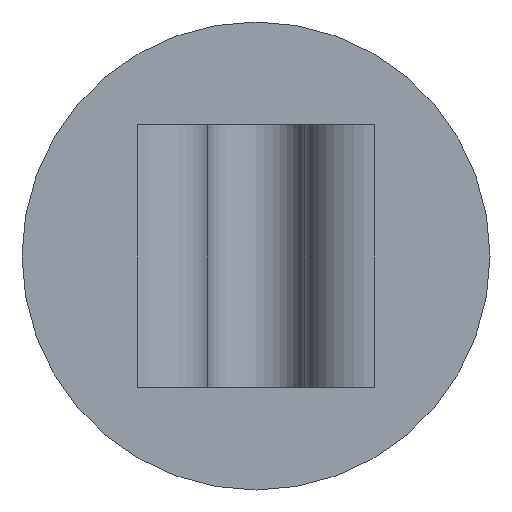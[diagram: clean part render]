
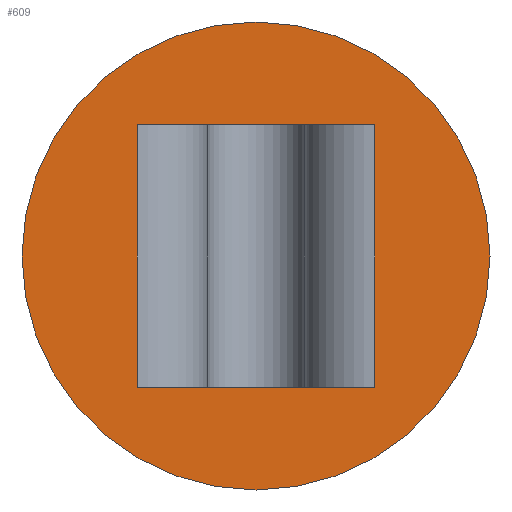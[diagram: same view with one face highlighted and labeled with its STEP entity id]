
A CAD part, front view. The second image highlights one B-rep face of the part: STEP entity #609.
In plain terms, the highlighted planar face has unit normal (0, -1, 0).
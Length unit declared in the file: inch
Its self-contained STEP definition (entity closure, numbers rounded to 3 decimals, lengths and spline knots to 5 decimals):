
#5 = VERTEX_POINT ( 'NONE', #722 ) ;
#6 = CARTESIAN_POINT ( 'NONE',  ( 0., -0.125, 0.35 ) ) ;
#16 = ORIENTED_EDGE ( 'NONE', *, *, #293, .T. ) ;
#21 = AXIS2_PLACEMENT_3D ( 'NONE', #364, #250, #245 ) ;
#26 = VERTEX_POINT ( 'NONE', #626 ) ;
#46 = DIRECTION ( 'NONE',  ( 0., 0., 1. ) ) ;
#49 = VECTOR ( 'NONE', #424, 39.37008 ) ;
#67 = CARTESIAN_POINT ( 'NONE',  ( -0.625, -0.125, 0.7 ) ) ;
#92 = CARTESIAN_POINT ( 'NONE',  ( -0.31743, -0.125, 0. ) ) ;
#116 = ORIENTED_EDGE ( 'NONE', *, *, #254, .T. ) ;
#178 = VECTOR ( 'NONE', #694, 39.37008 ) ;
#235 = DIRECTION ( 'NONE',  ( 0., 0., 1. ) ) ;
#245 = DIRECTION ( 'NONE',  ( 0., 0., -1. ) ) ;
#250 = DIRECTION ( 'NONE',  ( 0., -1., 0. ) ) ;
#252 = CARTESIAN_POINT ( 'NONE',  ( -0.31743, -0.125, 0.7 ) ) ;
#254 = EDGE_CURVE ( 'NONE', #745, #26, #470, .T. ) ;
#257 = CARTESIAN_POINT ( 'NONE',  ( 0., -0.125, -0.275 ) ) ;
#272 = CIRCLE ( 'NONE', #21, 0.625 ) ;
#277 = EDGE_LOOP ( 'NONE', ( #16, #361 ) ) ;
#282 = CARTESIAN_POINT ( 'NONE',  ( 0.31743, -0.125, 0. ) ) ;
#288 = VERTEX_POINT ( 'NONE', #92 ) ;
#289 = LINE ( 'NONE', #481, #49 ) ;
#293 = EDGE_CURVE ( 'NONE', #749, #5, #272, .T. ) ;
#303 = CIRCLE ( 'NONE', #571, 0.625 ) ;
#335 = LINE ( 'NONE', #579, #385 ) ;
#337 = CARTESIAN_POINT ( 'NONE',  ( -0.31743, -0.125, 0. ) ) ;
#361 = ORIENTED_EDGE ( 'NONE', *, *, #622, .T. ) ;
#364 = CARTESIAN_POINT ( 'NONE',  ( 0., -0.125, 0.35 ) ) ;
#385 = VECTOR ( 'NONE', #46, 39.37008 ) ;
#397 = ORIENTED_EDGE ( 'NONE', *, *, #450, .F. ) ;
#403 = FACE_BOUND ( 'NONE', #558, .T. ) ;
#424 = DIRECTION ( 'NONE',  ( 0., 0., 1. ) ) ;
#450 = EDGE_CURVE ( 'NONE', #288, #704, #682, .T. ) ;
#470 = LINE ( 'NONE', #701, #178 ) ;
#476 = FACE_OUTER_BOUND ( 'NONE', #277, .T. ) ;
#481 = CARTESIAN_POINT ( 'NONE',  ( 0.31743, -0.125, 0. ) ) ;
#524 = PLANE ( 'NONE',  #614 ) ;
#533 = DIRECTION ( 'NONE',  ( 0., 1., 0. ) ) ;
#550 = VECTOR ( 'NONE', #566, 39.37008 ) ;
#558 = EDGE_LOOP ( 'NONE', ( #397, #708, #116, #719 ) ) ;
#566 = DIRECTION ( 'NONE',  ( 1., 0., 0. ) ) ;
#567 = EDGE_CURVE ( 'NONE', #288, #745, #335, .T. ) ;
#571 = AXIS2_PLACEMENT_3D ( 'NONE', #6, #636, #643 ) ;
#579 = CARTESIAN_POINT ( 'NONE',  ( -0.31743, -0.125, 0. ) ) ;
#609 = ADVANCED_FACE ( 'NONE', ( #476, #403 ), #524, .F. ) ;
#614 = AXIS2_PLACEMENT_3D ( 'NONE', #67, #533, #235 ) ;
#622 = EDGE_CURVE ( 'NONE', #5, #749, #303, .T. ) ;
#626 = CARTESIAN_POINT ( 'NONE',  ( 0.31743, -0.125, 0.7 ) ) ;
#628 = EDGE_CURVE ( 'NONE', #704, #26, #289, .T. ) ;
#636 = DIRECTION ( 'NONE',  ( 0., -1., 0. ) ) ;
#643 = DIRECTION ( 'NONE',  ( 0., 0., -1. ) ) ;
#682 = LINE ( 'NONE', #337, #550 ) ;
#694 = DIRECTION ( 'NONE',  ( 1., 0., 0. ) ) ;
#701 = CARTESIAN_POINT ( 'NONE',  ( -0.31743, -0.125, 0.7 ) ) ;
#704 = VERTEX_POINT ( 'NONE', #282 ) ;
#708 = ORIENTED_EDGE ( 'NONE', *, *, #567, .T. ) ;
#719 = ORIENTED_EDGE ( 'NONE', *, *, #628, .F. ) ;
#722 = CARTESIAN_POINT ( 'NONE',  ( 0., -0.125, 0.975 ) ) ;
#745 = VERTEX_POINT ( 'NONE', #252 ) ;
#749 = VERTEX_POINT ( 'NONE', #257 ) ;
